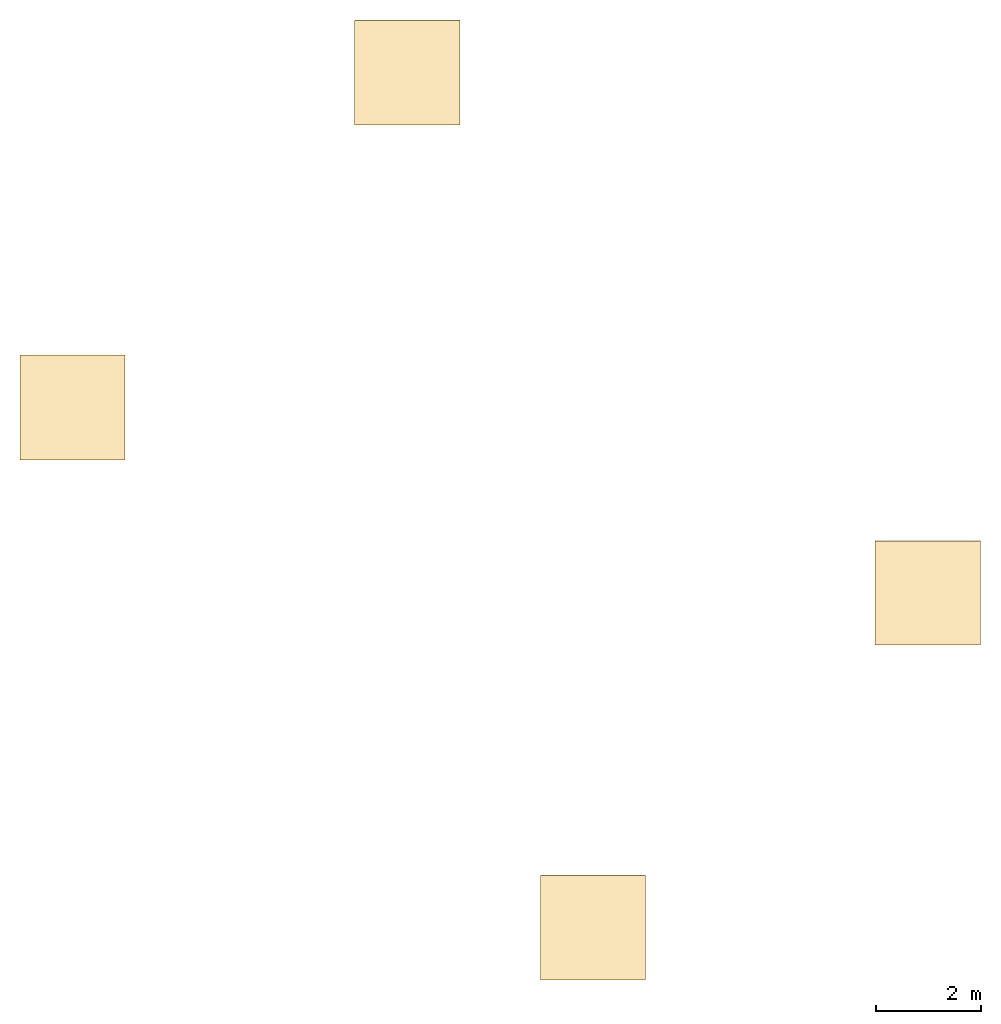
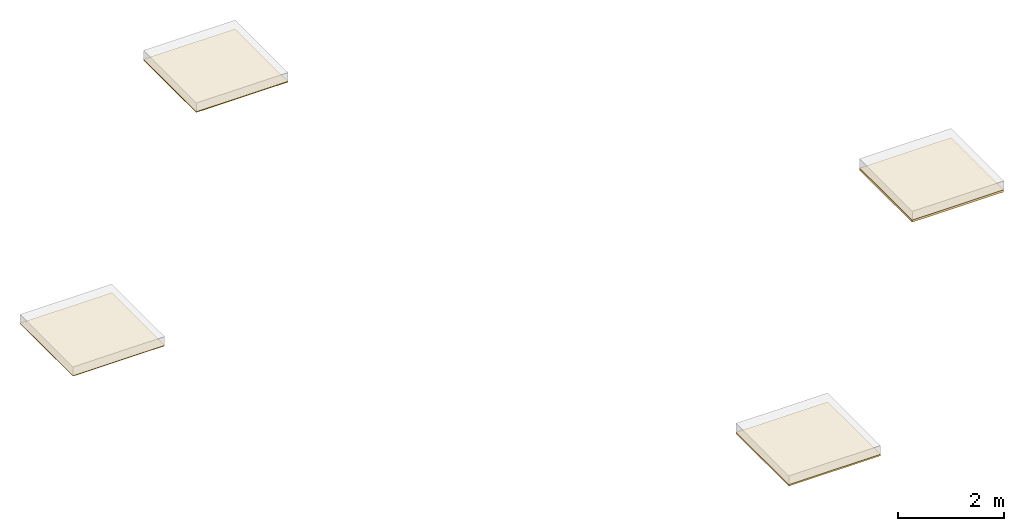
# One storey, part 2 of 2: 4 coverings.
"""IFC2X3 building model written with IfcOpenShell, lengths in millimetres."""

from ifc_helpers import new_model, entity, si_unit, converted_unit, derived_unit, direction, frame, frame_2d, origin, origin_2d_with_axis, place, context, subcontext, project, spatial, rectangle, extrude, material, layer, layer_set, layer_usage, element, save


model = new_model("IFC2X3")

# Units and contexts
model_context = context("Model", 3, precision=0.01, world=origin(), true_north=direction((6.12303176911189e-17, 1.0)))
context_of_model = context(None, 3, precision=0.01, world=origin(), true_north=direction((6.12303176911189e-17, 1.0)))
body_context = subcontext(model_context, "Body", "Model", "MODEL_VIEW")
ifc_project = project(units=[si_unit("LENGTHUNIT", "METRE", prefix="MILLI"), si_unit("AREAUNIT", "SQUARE_METRE"), si_unit("VOLUMEUNIT", "CUBIC_METRE"), converted_unit("PLANEANGLEUNIT", "DEGREE", entity("IfcRatioMeasure", 0.0174532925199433), si_unit("PLANEANGLEUNIT", "RADIAN"), dimensions=[0, 0, 0, 0, 0, 0, 0]), si_unit("MASSUNIT", "GRAM", prefix="KILO"), si_unit("TIMEUNIT", "SECOND"), si_unit("FREQUENCYUNIT", "HERTZ"), si_unit("THERMODYNAMICTEMPERATUREUNIT", "DEGREE_CELSIUS"), derived_unit("THERMALTRANSMITTANCEUNIT", [(si_unit("MASSUNIT", "GRAM", prefix="KILO"), 1), (si_unit("THERMODYNAMICTEMPERATUREUNIT", "KELVIN"), -1), (si_unit("TIMEUNIT", "SECOND"), -3)]), derived_unit("VOLUMETRICFLOWRATEUNIT", [(si_unit("LENGTHUNIT", "METRE"), 3), (si_unit("TIMEUNIT", "SECOND"), -1)]), si_unit("ELECTRICCURRENTUNIT", "AMPERE"), si_unit("ELECTRICVOLTAGEUNIT", "VOLT"), si_unit("POWERUNIT", "WATT"), si_unit("FORCEUNIT", "NEWTON", prefix="KILO"), si_unit("ILLUMINANCEUNIT", "LUX"), si_unit("LUMINOUSFLUXUNIT", "LUMEN"), si_unit("LUMINOUSINTENSITYUNIT", "CANDELA"), derived_unit("USERDEFINED", [(si_unit("MASSUNIT", "GRAM", prefix="KILO"), -1), (si_unit("LENGTHUNIT", "METRE"), -2), (si_unit("TIMEUNIT", "SECOND"), 3), (si_unit("LUMINOUSFLUXUNIT", "LUMEN"), 1)]), derived_unit("LINEARVELOCITYUNIT", [(si_unit("LENGTHUNIT", "METRE"), 1), (si_unit("TIMEUNIT", "SECOND"), -1)]), si_unit("PRESSUREUNIT", "PASCAL"), derived_unit("USERDEFINED", [(si_unit("LENGTHUNIT", "METRE"), -2), (si_unit("MASSUNIT", "GRAM", prefix="KILO"), 1), (si_unit("TIMEUNIT", "SECOND"), -2)])], contexts=[model_context, context_of_model])

# Site, building, storey
site_placement = place(None, origin())
site = spatial("IfcSite", under=ifc_project, at=site_placement, Name="Default", CompositionType="ELEMENT")
building_placement = place(site_placement, origin())
building = spatial("IfcBuilding", under=site, at=building_placement, CompositionType="ELEMENT")
storey_placement = place(building_placement, frame((0.0, 0.0, 1800.0)))
storey = spatial("IfcBuildingStorey", under=building, at=storey_placement, Name="01 eerste verdieping", CompositionType="ELEMENT", Elevation=1800.0)

# Coverings
ifc_material = material(Name="Heraklith® | Basis - Houtwollaag - 2000x600mm")
ifc_layer_1 = layer(ifc_material, 15.0)
ifc_layer_set_1 = layer_set([ifc_layer_1], Name="Compound Ceiling:NLRS_45_CEI_Heraklith - Basis 15x2000x600mm")
ifc_layer_usage_1 = layer_usage(ifc_layer_set_1, "AXIS3", "NEGATIVE", 0.0)
covering_1_placement = place(storey_placement, frame((0.0, 2515.0, -15.0)))
element("IfcCovering", 1, at=covering_1_placement, inside=storey, material=ifc_layer_usage_1, Name="Compound Ceiling:NLRS_45_CEI_Heraklith - Basis 15x2000x600mm", ObjectType="Compound Ceiling:NLRS_45_CEI_Heraklith - Basis 15x2000x600mm", PredefinedType="CEILING", context=body_context, shape_type="SweptSolid", body=[
    extrude(rectangle(XDim=2000.0, YDim=2000.0, at=frame_2d((2.8421709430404e-13, 0.0), x_axis=(1.0, 0.0))), frame((1000.0, 1000.0, 0.0), z_axis=(0.0, 0.0, 1.0), x_axis=(-1.0, 0.0, 0.0)), (0.0, 0.0, 1.0), 15.0000000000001),
])
ifc_layer_2 = layer(ifc_material, 20.0)
ifc_layer_set_2 = layer_set([ifc_layer_2], Name="Compound Ceiling:NLRS_45_CEI_Heraklith - Basis 25x2000x600mm")
ifc_layer_usage_2 = layer_usage(ifc_layer_set_2, "AXIS3", "NEGATIVE", 0.0)
covering_2_placement = place(storey_placement, frame((6363.9610306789, 8883.96103067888, -25.0)))
element("IfcCovering", 2, at=covering_2_placement, inside=storey, material=ifc_layer_usage_2, Name="Compound Ceiling:NLRS_45_CEI_Heraklith - Basis 25x2000x600mm", ObjectType="Compound Ceiling:NLRS_45_CEI_Heraklith - Basis 25x2000x600mm", PredefinedType="CEILING", context=body_context, shape_type="SweptSolid", body=[
    extrude(rectangle(XDim=2000.0, YDim=1995.0, at=frame_2d((-1.08002495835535e-12, 1.08002495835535e-12), x_axis=(1.0, 0.0))), frame((1000.0, 997.500000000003, 0.0), z_axis=(0.0, 0.0, 1.0), x_axis=(-1.0, 0.0, 0.0)), (0.0, 0.0, 1.0), 20.0000000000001),
])
ifc_layer_3 = layer(ifc_material, 35.0)
ifc_layer_set_3 = layer_set([ifc_layer_3], Name="Compound Ceiling:NLRS_45_CEI_Heraklith - Basis 35x2000x600mm")
ifc_layer_usage_3 = layer_usage(ifc_layer_set_3, "AXIS3", "NEGATIVE", 0.0)
covering_3_placement = place(storey_placement, frame((9899.49493661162, -7374.49493661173, -15.0)))
element("IfcCovering", 3, at=covering_3_placement, inside=storey, material=ifc_layer_usage_3, Name="Compound Ceiling:NLRS_45_CEI_Heraklith - Basis 35x2000x600mm", ObjectType="Compound Ceiling:NLRS_45_CEI_Heraklith - Basis 35x2000x600mm", PredefinedType="CEILING", context=body_context, shape_type="SweptSolid", body=[
    extrude(rectangle(XDim=2000.0, YDim=1990.0, at=origin_2d_with_axis()), frame((1000.0, 995.0, 0.0), z_axis=(0.0, 0.0, 1.0), x_axis=(-1.0, 0.0, 0.0)), (0.0, 0.0, 1.0), 34.9999999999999),
])
ifc_layer_4 = layer(ifc_material, 50.0)
ifc_layer_set_4 = layer_set([ifc_layer_4], Name="Compound Ceiling:NLRS_45_CEI_Heraklith - Basis 50x2000x600mm")
ifc_layer_usage_4 = layer_usage(ifc_layer_set_4, "AXIS3", "NEGATIVE", 0.0)
covering_4_placement = place(storey_placement, frame((16263.4559672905, -1003.03390593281, -25.0)))
element("IfcCovering", 4, at=covering_4_placement, inside=storey, material=ifc_layer_usage_4, Name="Compound Ceiling:NLRS_45_CEI_Heraklith - Basis 50x2000x600mm", ObjectType="Compound Ceiling:NLRS_45_CEI_Heraklith - Basis 50x2000x600mm", PredefinedType="CEILING", context=body_context, shape_type="SweptSolid", body=[
    extrude(rectangle(XDim=2000.0, YDim=1982.50000000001, at=frame_2d((0.0, 5.6843418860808e-14), x_axis=(1.0, 0.0))), frame((1000.0, 991.250000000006, 0.0), z_axis=(0.0, 0.0, 1.0), x_axis=(-1.0, 0.0, 0.0)), (0.0, 0.0, 1.0), 50.0),
])

save(model, "model.ifc")
